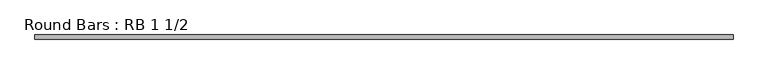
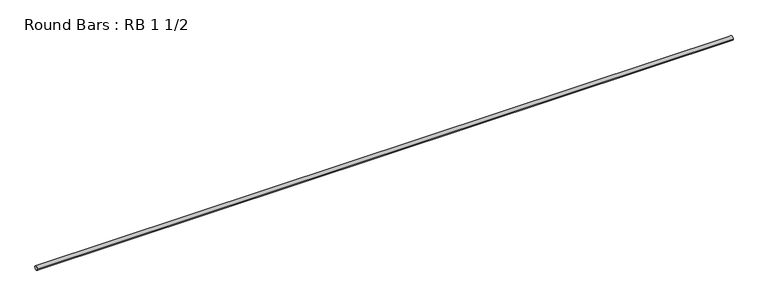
"""IFC4 building model written with IfcOpenShell, lengths in millimetres: member geometry, Round Bars : RB 1 1/2."""

from ifc_helpers import new_model, si_unit, point, frame, origin, origin_2d, place, context, project, spatial, circle_curve, trimmed, segment, composite_curve, outline, extrude, source, transform, mapped, element, save


def round_bars_rb_1_1_2_fb952806(model_context):
    return source(origin(), model_context, "Body", "SweptSolid", [
        extrude(outline(composite_curve([segment(trimmed(circle_curve(origin_2d(), 19.05), [point((19.05, 0.0))], [point((-19.05, 0.0))], False, "CARTESIAN"), True, "CONTINUOUS"), segment(trimmed(circle_curve(origin_2d(), 19.05), [point((-19.05, 0.0))], [point((19.05, 0.0))], False, "CARTESIAN"), True, "CONTINUOUS")], self_intersect=False)), frame((-3205.490711, 0.0, 0.0), z_axis=(1.0, 0.0, 0.0), x_axis=(0.0, 1.0, 0.0)), (0.0, 0.0, 1.0), 6435.490711),
    ])


if __name__ == "__main__":
    model = new_model("IFC4")
    model_context = context("Model", 3, world=origin())
    ifc_project = project(units=[si_unit("LENGTHUNIT", "METRE", prefix="MILLI")], contexts=[model_context])
    site = spatial("IfcSite", under=ifc_project)
    building = spatial("IfcBuilding", under=site)
    placement = place(None, origin())
    round_bars_rb_1_1_2_shape = round_bars_rb_1_1_2_fb952806(model_context)
    element("IfcMember", 1, ObjectType="Round Bars : RB 1 1/2", at=placement, inside=building, context=model_context, shape_type="MappedRepresentation", body=[
        mapped(round_bars_rb_1_1_2_shape, transform((0.0, 0.0, 0.0), x_axis=(1.0, 0.0, 0.0), y_axis=(0.0, 1.0, 0.0), z_axis=(0.0, 0.0, 1.0))),
    ])
    save(model, "model.ifc")
